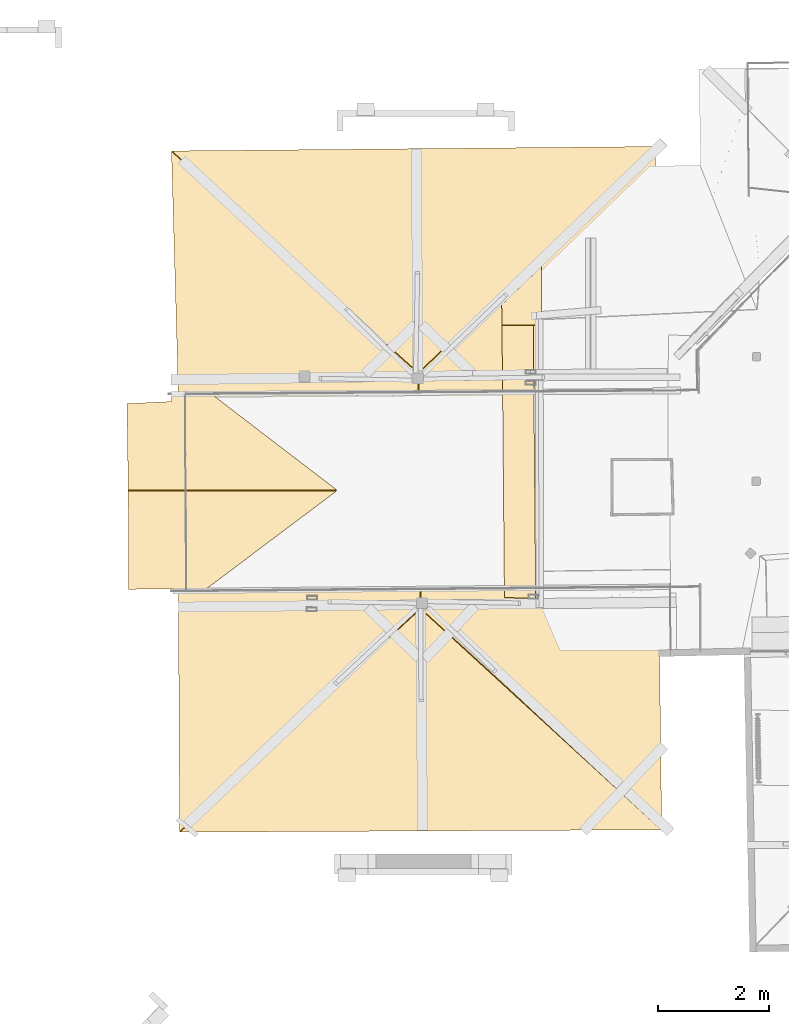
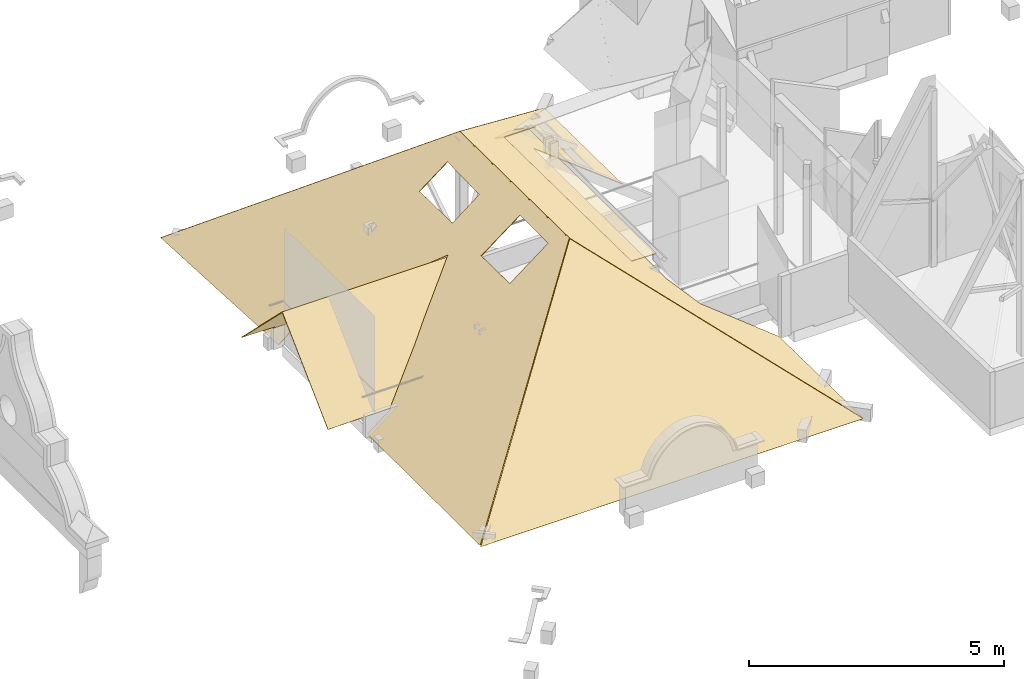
# One storey, part 25 of 39: 3 coverings.
"""IFC2X3 building model written with IfcOpenShell, lengths in centimetres."""

from ifc_helpers import new_model, entity, si_unit, converted_unit, direction, frame, origin, origin_with_axes, place, context, subcontext, project, spatial, faceted_brep, material, element, save


model = new_model("IFC2X3")

# Units and contexts
model_context = context("Model", 3, precision=0.0001, world=origin(), true_north=direction((0.225632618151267, 0.974212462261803, 0.0)))
body_context = subcontext(model_context, "Body", "Model", "MODEL_VIEW")
ifc_project = project(units=[si_unit("LENGTHUNIT", "METRE", prefix="CENTI"), si_unit("AREAUNIT", "SQUARE_METRE", prefix="CENTI"), si_unit("VOLUMEUNIT", "CUBIC_METRE", prefix="CENTI"), converted_unit("PLANEANGLEUNIT", "DEGREE", entity("IfcRatioMeasure", 0.0174532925), si_unit("PLANEANGLEUNIT", "RADIAN"), dimensions=[0, 0, 0, 0, 0, 0, 0])], contexts=[model_context])

# Site, building, storey
site_placement = place(None, origin_with_axes())
site = spatial("IfcSite", under=ifc_project, at=site_placement, Name="Default Site", CompositionType="ELEMENT")
building_placement = place(site_placement, origin_with_axes())
building = spatial("IfcBuilding", under=site, at=building_placement, Name="Default Building", CompositionType="ELEMENT")
storey_placement = place(building_placement, frame((0.0, 0.0, 1088.91037418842), z_axis=(0.0, 0.0, 1.0), x_axis=(1.0, 0.0, 0.0)))
storey = spatial("IfcBuildingStorey", under=building, at=storey_placement, Name="Mezzanine", CompositionType="ELEMENT", Elevation=1088.91037418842)

# Coverings
ifc_material = material(Name="Blanc")
covering_1_placement = place(storey_placement, frame((-663.118740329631, 127.73798961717, 214.702416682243), z_axis=(0.0, 0.0, 1.0), x_axis=(1.0, 0.0, 0.0)))
element("IfcCovering", 1, at=covering_1_placement, inside=storey, material=ifc_material, Name="Faux-plafond 1900155", PredefinedType="CEILING", context=body_context, shape_type="Brep", body=[
    faceted_brep([(-76.6222989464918, -369.123449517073, -172.505365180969), (13.891598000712, -368.32000723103, -171.818905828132), (64.2504180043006, -367.873033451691, -171.437016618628), (298.953625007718, -191.470054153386, 1.00044912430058), (-77.5357758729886, -191.895383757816, 1.00043369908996), (-77.5368726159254, -190.915986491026, 1.35421755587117e-05), (298.952504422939, -190.490656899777, 2.8980850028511e-05), (64.2493212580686, -366.893639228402, -172.437439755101), (13.8904535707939, -367.340613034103, -172.819328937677), (-76.6233956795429, -368.144043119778, -173.505776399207), (-76.6233956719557, -368.144049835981, -173.505769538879), (13.8904534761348, -367.340620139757, -172.819308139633), (64.2493206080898, -366.893577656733, -172.437426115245), (64.250417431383, -367.872959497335, -171.437027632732), (13.8915979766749, -368.320001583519, -171.81890926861), (-76.6222990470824, -369.123443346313, -172.505359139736), (-76.6233856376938, -368.144049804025, -173.505769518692), (-76.6222792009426, -369.123449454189, -172.505365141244), (-77.5357662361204, -191.895368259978, 1.0004179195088), (64.2493212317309, -366.893615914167, -172.437463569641), (298.952532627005, -190.490660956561, -5.25739815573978e-06), (298.953647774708, -191.470039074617, 1.00040271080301), (64.2504271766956, -367.87299801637, -171.437065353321), (298.952504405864, -190.490641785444, 1.35421755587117e-05), (-77.5368725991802, -190.91600131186, -9.67313347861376e-07), (-77.5357758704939, -191.895385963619, 1.00040059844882), (298.953624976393, -191.470026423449, 1.00041512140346)], [[[0, 1, 2, 3, 4]], [[5, 6, 7, 8, 9]], [[10, 11, 12, 13, 14, 15]], [[5, 16, 17, 18]], [[19, 20, 21, 22]], [[23, 24, 25, 26]]]),
    faceted_brep([(298.9514076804, -189.507123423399, 0.996317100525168), (74.5225870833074, -17.6825425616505, -168.866537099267), (0.542064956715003, -17.9697674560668, -168.665338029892), (0.885816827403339, -29.9648120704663, -156.824294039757), (-79.7312294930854, -33.8118944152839, -153.116440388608), (-77.5380169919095, -189.932497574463, 0.99724094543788), (-77.5368726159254, -190.915986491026, 0.000871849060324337), (-79.7301328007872, -34.7953833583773, -154.112809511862), (0.886913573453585, -30.948348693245, -157.820616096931), (0.543161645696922, -18.9532594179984, -169.661704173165), (74.523683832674, -18.666076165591, -169.862862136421), (298.952504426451, -190.490660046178, -4.95664842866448e-06), (298.952504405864, -190.490641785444, 1.35421755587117e-05), (74.5236943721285, -18.6660364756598, -169.862835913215), (74.5225798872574, -17.6825358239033, -168.866520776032), (298.951387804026, -189.507136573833, 0.99633005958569), (74.5236837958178, -18.6660434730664, -169.862829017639), (0.543161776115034, -18.9532751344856, -169.661678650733), (0.542064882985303, -17.9697252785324, -168.665304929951), (74.5225871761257, -17.6825471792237, -168.86650955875), (0.543161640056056, -18.9532544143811, -169.661699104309), (0.886912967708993, -30.9483255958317, -157.820592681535), (0.885803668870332, -29.9648074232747, -156.824288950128), (0.542053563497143, -17.9697302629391, -168.665300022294), (0.886913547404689, -30.9483255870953, -157.820592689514), (-79.7301315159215, -34.7953901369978, -154.112788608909), (-79.7312309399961, -33.8118427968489, -153.11641829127), (0.885818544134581, -29.9648257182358, -156.82427087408), (-79.7301328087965, -34.7953762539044, -154.112802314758), (-77.5369013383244, -190.915986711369, 0.000872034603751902), (-77.5380097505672, -189.932468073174, 0.997270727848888), (-79.7312412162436, -33.8118579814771, -153.116403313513), (298.952504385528, -190.490623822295, -4.189798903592e-06), (298.951407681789, -189.50712464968, 0.996318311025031), (-77.5380170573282, -189.932439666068, 0.997242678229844)], [[[0, 1, 2, 3, 4, 5]], [[6, 7, 8, 9, 10, 11]], [[12, 13, 14, 15]], [[16, 17, 18, 19]], [[20, 21, 22, 23]], [[24, 25, 26, 27]], [[28, 29, 30, 31]], [[6, 32, 33, 34]]]),
])
covering_2_placement = place(storey_placement, frame((210.670236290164, 557.439702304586, 265.609629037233), z_axis=(0.0, 0.0, 1.0), x_axis=(1.0, 0.0, 0.0)))
element("IfcCovering", 2, at=covering_2_placement, inside=storey, material=ifc_material, Name="Faux-plafond 1900156", PredefinedType="CEILING", context=body_context, shape_type="Brep", body=[
    faceted_brep([(-0.00830048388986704, 0.902992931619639, -270.450179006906), (-872.328809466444, -7.11263690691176, -270.450175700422), (-427.316860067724, -407.498263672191, 70.9497981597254), (-427.308562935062, -408.40128019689, 69.8800402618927), (-872.320512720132, -8.01559946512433, -271.519979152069), (-3.73757813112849e-06, 3.03734070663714e-05, -271.519982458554), (-3.51733713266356e-06, 6.40513038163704e-06, -271.520010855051), (-872.320512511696, -8.01562214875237, -271.520014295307), (-872.328809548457, -7.11262798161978, -270.45018889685), (-0.00830055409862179, 0.903000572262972, -270.450185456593), (-872.320512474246, -8.01562622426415, -271.520010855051), (-427.308545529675, -408.401268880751, 69.880030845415), (-427.316872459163, -407.498289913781, 70.9497835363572), (-872.328804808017, -7.11263668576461, -270.450181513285), (2.32493334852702e-05, -9.91322289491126e-06, -271.519996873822), (-0.0082789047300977, 0.902979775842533, -270.450167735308), (-427.316830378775, -407.498299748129, 70.949792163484)], [[[0, 1, 2]], [[3, 4, 5]], [[6, 7, 8, 9]], [[10, 11, 12, 13]], [[3, 14, 15, 16]]]),
    faceted_brep([(-423.397902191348, -834.40579727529, 70.9458666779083), (-857.708886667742, -1237.42277315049, -270.454152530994), (11.3269772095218, -1233.10186574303, -270.454152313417), (11.3224471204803, -1232.1940834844, -271.520010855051), (-857.713416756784, -1236.51499089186, -271.520011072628), (-423.40240843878, -833.498014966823, 69.8800080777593), (-423.402408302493, -833.498042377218, 69.8800402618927), (-857.713425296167, -1236.51498574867, -271.520006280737), (-857.70891199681, -1237.42273025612, -270.454170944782), (-423.397904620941, -834.405795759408, 70.9458679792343), (-857.713416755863, -1236.51499107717, -271.520010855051), (11.3224471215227, -1232.19408369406, -271.520011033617), (11.3269770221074, -1233.10182804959, -270.454175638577), (-857.708886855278, -1237.42273543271, -270.454175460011), (-423.402439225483, -833.498061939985, 69.880023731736), (-423.397922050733, -834.405809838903, 70.9458560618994), (11.3269739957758, -1233.10184032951, -270.454186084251)], [[[0, 1, 2]], [[3, 4, 5]], [[6, 7, 8, 9]], [[10, 11, 12, 13]], [[3, 14, 15, 16]]]),
    faceted_brep([(-873.177102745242, -8.0234940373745, -270.412699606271), (-860.706067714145, -448.736327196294, -263.898184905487), (-800.121878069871, -448.375635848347, -217.02964183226), (-575.693031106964, -620.200221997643, -44.6400732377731), (-810.302341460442, -796.532600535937, -227.379691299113), (-860.755500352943, -796.970313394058, -266.411742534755), (-858.569987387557, -1236.52285870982, -267.845529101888), (-424.258993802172, -833.505933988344, 70.9882036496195), (-428.165147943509, -408.409159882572, 70.9882030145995), (-474.161175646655, -442.352085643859, 35.1658831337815), (-475.075645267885, -568.616704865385, 33.5609642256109), (-535.633933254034, -568.680946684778, -13.2854349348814), (-537.17469710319, -441.895716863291, -13.5761050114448), (-452.82342675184, -689.967911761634, 49.9119751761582), (-452.699270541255, -799.745243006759, 49.2276987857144), (-538.933352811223, -799.079173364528, -17.4754772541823), (-539.963014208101, -688.865571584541, -17.4885694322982), (-427.308562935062, -408.40128019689, 69.8808985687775), (-423.402408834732, -833.498042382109, 69.8808992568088), (-857.713402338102, -1236.51499094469, -268.952833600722), (-859.898915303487, -796.962445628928, -267.519047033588), (-809.445756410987, -796.524732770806, -228.486995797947), (-574.836446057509, -620.192354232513, -45.7473777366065), (-799.265293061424, -448.367756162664, -218.136946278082), (-859.84948266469, -448.728459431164, -265.00548940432), (-872.320517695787, -8.01562627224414, -271.520004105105), (-536.318112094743, -441.887837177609, -14.6834094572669), (-534.77734821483, -568.673075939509, -14.392739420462), (-474.219060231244, -568.608833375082, 32.4536597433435), (-473.304575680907, -442.344217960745, 34.058590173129), (-539.106429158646, -688.85770381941, -18.5958739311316), (-538.076767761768, -799.071305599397, -18.5827817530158), (-451.842731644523, -799.737375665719, 48.120358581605), (-451.9668268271, -689.960032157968, 48.8046822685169), (-872.320512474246, -8.01562622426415, -271.520010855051), (-859.849525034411, -448.72846045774, -265.005477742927), (-860.706109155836, -448.73632802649, -263.898161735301), (-873.177096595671, -8.02349379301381, -270.412694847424), (-859.849504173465, -448.728459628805, -265.00546159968), (-799.265292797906, -448.367759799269, -218.136946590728), (-800.12188313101, -448.375630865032, -217.029635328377), (-860.706094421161, -448.736330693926, -263.898150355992), (-799.265292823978, -448.367756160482, -218.136946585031), (-574.836476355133, -620.192363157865, -45.7473471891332), (-575.69306608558, -620.200229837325, -44.6400355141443), (-800.121878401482, -448.375626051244, -217.02963163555), (-574.836472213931, -620.19235447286, -45.7473439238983), (-809.445758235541, -796.524749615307, -228.486977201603), (-810.302345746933, -796.532623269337, -227.379663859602), (-575.693059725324, -620.20022812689, -44.6400305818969), (-809.445766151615, -796.524732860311, -228.486983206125), (-859.898904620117, -796.962432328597, -267.519060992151), (-860.755494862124, -796.970303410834, -266.411749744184), (-810.302356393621, -796.532603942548, -227.379671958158), (-859.898904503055, -796.962445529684, -267.519060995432), (-857.713443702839, -1236.51499114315, -268.952835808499), (-858.570027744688, -1236.52285894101, -267.845519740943), (-860.755488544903, -796.970313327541, -266.411744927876), (-857.713416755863, -1236.51499107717, -268.952814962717), (-423.402399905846, -833.498056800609, 69.8809049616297), (-424.258995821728, -833.505938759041, 70.9882119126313), (-858.570003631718, -1236.5228647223, -267.845501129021), (-423.402408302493, -833.498042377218, 69.8808985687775), (-427.308562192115, -408.401280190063, 69.8808991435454), (-428.165146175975, -408.409159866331, 70.9882152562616), (-424.25899221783, -833.505933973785, 70.988214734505), (-872.32051006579, -8.01562193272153, -271.520008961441), (-873.17709943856, -8.02348814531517, -270.412697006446), (-428.165147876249, -408.409150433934, 70.9882140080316), (-537.174705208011, -441.895716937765, -13.5760945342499), (-535.633945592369, -568.680946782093, -13.2854119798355), (-534.777361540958, -568.673076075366, -14.3927280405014), (-536.31812123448, -441.887837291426, -14.6834106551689), (-535.633948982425, -568.680946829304, -13.2854146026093), (-475.075653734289, -568.616704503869, 33.5609751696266), (-474.219063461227, -568.608833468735, 32.4536639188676), (-534.777358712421, -568.673075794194, -14.3927258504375), (-475.075653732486, -568.616704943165, 33.5609751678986), (-474.161205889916, -442.352085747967, 35.1659085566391), (-473.304612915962, -442.344217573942, 34.0585809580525), (-474.219069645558, -568.608833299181, 32.4536591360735), (-474.161199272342, -442.352085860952, 35.1659136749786), (-537.174705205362, -441.895714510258, -13.5760945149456), (-536.318114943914, -441.887843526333, -14.6834058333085), (-473.304585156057, -442.344214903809, 34.0586024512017), (-539.963034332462, -688.865571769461, -17.4885434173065), (-538.933336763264, -799.079173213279, -17.4754661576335), (-538.07675270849, -799.071305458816, -18.5827822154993), (-539.106450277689, -688.857704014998, -18.5958594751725), (-538.933352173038, -799.079173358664, -17.4754780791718), (-452.699307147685, -799.745245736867, 49.2277460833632), (-451.842716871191, -799.737373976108, 48.1203394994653), (-538.076761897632, -799.07130237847, -18.5827893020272), (-452.699307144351, -799.7452433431, 49.2277461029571), (-452.823427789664, -689.967912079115, 49.9120259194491), (-451.966834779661, -689.960032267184, 48.8046983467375), (-451.842676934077, -799.737375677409, 48.1203703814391), (-452.82345169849, -689.967911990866, 49.9120074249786), (-539.963034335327, -688.865572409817, -17.4885434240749), (-539.106444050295, -688.857701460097, -18.595854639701), (-451.966837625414, -689.96004114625, 48.8046960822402)], [[[0, 1, 2, 3, 4, 5, 6, 7, 8], [9, 10, 11, 12], [13, 14, 15, 16]], [[17, 18, 19, 20, 21, 22, 23, 24, 25], [26, 27, 28, 29], [30, 31, 32, 33]], [[34, 35, 36, 37]], [[38, 39, 40, 41]], [[42, 43, 44, 45]], [[46, 47, 48, 49]], [[50, 51, 52, 53]], [[54, 55, 56, 57]], [[58, 59, 60, 61]], [[62, 63, 64, 65]], [[17, 66, 67, 68]], [[69, 70, 71, 72]], [[73, 74, 75, 76]], [[77, 78, 79, 80]], [[81, 82, 83, 84]], [[85, 86, 87, 88]], [[89, 90, 91, 92]], [[93, 94, 95, 96]], [[97, 98, 99, 100]]]),
    faceted_brep([(-426.439360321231, -408.39329317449, 70.9774332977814), (-422.533220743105, -833.490055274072, 70.9774443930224), (12.1916411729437, -1232.18612038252, -270.422533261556), (8.378066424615, -908.008020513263, -269.761413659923), (-170.880447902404, -908.495157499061, -127.785363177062), (-203.089565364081, -833.877461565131, -102.818819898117), (-204.37123862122, -312.272804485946, -105.599747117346), (3.64789194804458, -302.392381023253, -270.422527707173), (0.869188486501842, 0.0079694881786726, -270.422535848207), (-3.51733713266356e-06, 6.40513038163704e-06, -271.520010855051), (2.77871468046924, -302.400368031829, -271.520014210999), (-205.240425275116, -312.280791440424, -106.697226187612), (-203.958798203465, -833.885448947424, -103.916262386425), (-171.749634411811, -908.503120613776, -128.882842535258), (7.50884274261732, -908.016007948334, -270.858863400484), (11.3224491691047, -1232.19408346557, -271.520008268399), (-423.402444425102, -833.498042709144, 69.8799946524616), (-427.308598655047, -408.401280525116, 69.8799951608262), (-427.308562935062, -408.40128019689, 69.8800402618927), (-423.402408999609, -833.498042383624, 69.880040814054), (-422.53325780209, -833.490055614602, 70.9774556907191), (-426.439402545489, -408.393293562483, 70.9774667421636), (-423.402408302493, -833.498042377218, 69.8800402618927), (11.3224374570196, -1232.19410068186, -271.520003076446), (12.191650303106, -1232.1861192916, -270.422522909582), (-422.533239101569, -833.490072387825, 70.9774410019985), (11.3224471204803, -1232.1940834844, -271.520010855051), (7.50888159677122, -908.016007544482, -270.858837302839), (8.37803279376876, -908.008020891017, -269.76142242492), (12.1916541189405, -1232.18612024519, -270.422525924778), (7.50887042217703, -908.016007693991, -270.858828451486), (-171.749643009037, -908.503124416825, -128.882853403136), (-170.880449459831, -908.495137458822, -127.785365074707), (8.37804919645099, -908.008021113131, -269.761435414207), (-171.749643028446, -908.503120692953, -128.882853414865), (-203.958741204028, -833.885425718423, -103.916258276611), (-203.089575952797, -833.877458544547, -102.818842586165), (-170.880434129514, -908.495146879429, -127.785377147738), (-203.958774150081, -833.8854487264, -103.916232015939), (-205.240473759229, -312.280791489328, -106.697213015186), (-204.371270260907, -312.272804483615, -105.599732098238), (-203.089617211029, -833.877461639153, -102.818809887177), (-205.240437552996, -312.280791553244, -106.697241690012), (2.7787174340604, -302.400370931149, -271.520010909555), (3.64789623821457, -302.392384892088, -270.422522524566), (-204.371243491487, -312.272805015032, -105.599753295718), (2.77871733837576, -302.400368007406, -271.520010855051), (7.58954847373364e-07, 6.44442461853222e-06, -271.520014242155), (0.869207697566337, 0.0079696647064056, -270.422529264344), (3.64791495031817, -302.392380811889, -270.422537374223), (-427.3085602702, -408.401284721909, 69.8800381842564), (-426.439372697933, -408.393272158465, 70.977442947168), (0.86919159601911, 0.00798232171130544, -270.422516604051)], [[[0, 1, 2, 3, 4, 5, 6, 7, 8]], [[9, 10, 11, 12, 13, 14, 15, 16, 17]], [[18, 19, 20, 21]], [[22, 23, 24, 25]], [[26, 27, 28, 29]], [[30, 31, 32, 33]], [[34, 35, 36, 37]], [[38, 39, 40, 41]], [[42, 43, 44, 45]], [[46, 47, 48, 49]], [[9, 50, 51, 52]]]),
])
covering_3_placement = place(storey_placement, frame((-9.07000000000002, 235.43, 215.702416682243), z_axis=(0.0, 0.0, 1.0), x_axis=(1.0, 0.0, 0.0)))
element("IfcCovering", 3, at=covering_3_placement, inside=storey, material=ifc_material, Name="Faux-plafond 1900120", PredefinedType="CEILING", context=body_context, shape_type="Brep", body=[
    faceted_brep([(-56.5200001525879, 0.802995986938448, 1.78455181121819), (-5.24520663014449e-08, 0.802995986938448, 1.78455181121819), (14.4997987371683, 0.802995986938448, 1.78455181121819), (14.4997987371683, 106.002329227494, -71.8768149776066), (-57.0103616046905, 37.1871319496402, -23.6918946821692), (-57.0103616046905, 36.3841078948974, -24.8386972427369), (14.4997987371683, 105.199365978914, -73.0236601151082), (14.4997987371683, -1.20696776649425e-05, 0.637738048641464), (-5.24520663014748e-08, -1.20696776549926e-05, 0.637738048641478), (-56.5200001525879, -1.20696776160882e-05, 0.637738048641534), (-56.5200001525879, 2.21252438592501e-06, 0.637758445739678), (-5.24520663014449e-08, 2.21252438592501e-06, 0.637758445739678), (14.4997987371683, 2.21252438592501e-06, 0.637758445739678), (14.4997987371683, 0.802995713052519, 1.78455200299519), (-5.24520663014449e-08, 0.802995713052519, 1.78455200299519), (-56.5200001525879, 0.802995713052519, 1.78455200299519), (-56.5200026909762, 2.18956875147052e-06, 0.637758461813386), (-56.5200026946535, 0.802995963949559, 1.78455182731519), (-57.0103618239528, 37.1871255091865, -23.6919038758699), (14.4997987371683, 105.199363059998, -73.0236642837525), (14.4997987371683, 106.002356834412, -71.8767755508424), (-57.0103712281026, 36.3841146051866, -24.8387019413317), (-57.0103614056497, 37.1871253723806, -23.6919037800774), (14.4997719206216, 106.002375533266, -71.8767886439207)], [[[0, 1, 2, 3, 4]], [[5, 6, 7, 8, 9]], [[10, 11, 12, 13, 14, 15]], [[5, 16, 17, 18]], [[12, 19, 20, 2]], [[19, 21, 22, 23]]]),
    faceted_brep([(-52.089998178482, -491.479990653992, 1.40003032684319), (4.44626728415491, -493.284723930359, 1.40003032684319), (-5.24520663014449e-08, 2.21252438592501e-06, 1.40003032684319), (-56.5200001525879, 2.21252438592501e-06, 1.40003032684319), (-56.5200001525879, 2.21252438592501e-06, 3.64303588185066e-05), (-5.24520663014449e-08, 2.21252438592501e-06, 3.64303588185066e-05), (4.44626728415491, -493.284723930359, 3.64303588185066e-05), (-52.089998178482, -491.479990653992, 3.64303588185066e-05), (4.44626727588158, -493.284724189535, 3.64303588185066e-05), (4.44626727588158, -493.284724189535, 1.40003032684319), (4.20915198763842e-07, 2.21679112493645e-06, 3.64303588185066e-05), (4.20915198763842e-07, 2.21679112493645e-06, 1.40003032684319), (-52.0900004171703, -491.47999067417, 3.64303588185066e-05), (-52.0900004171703, -491.47999067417, 1.40003032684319)], [[[0, 1, 2, 3]], [[4, 5, 6, 7]], [[7, 8, 9, 0]], [[6, 10, 11, 1]], [[5, 4, 3, 2]], [[4, 12, 13, 3]]]),
])

save(model, "model.ifc")
